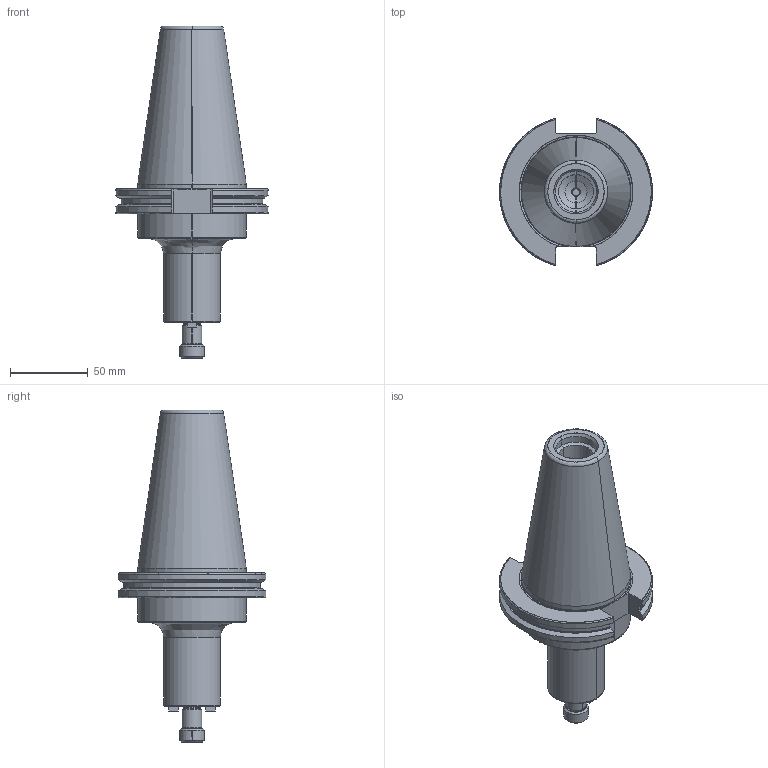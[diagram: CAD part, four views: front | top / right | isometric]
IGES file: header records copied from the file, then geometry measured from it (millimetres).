
Start section: SolidWorks IGES file using analytic representation for surfaces
Global section: file name: C:\ProgramData\Alignex\DDS\processing\files\C6S5-0500\igs\C6S5-0500.igs; native system: SolidWorks 2013; preprocessor: SolidWorks 2013; author: SYSTEM; date: 130213.162515; units: inch
Bounding box: 98.3 x 94.95 x 213.47 mm (x, y, z)
Surface area: 59650.8 mm2 (no closed solid volume)
Topology: 0 solids, 0 shells, 240 faces, 3068 edges, 3056 vertices
Faces by surface type: revolution 131, bspline 109
